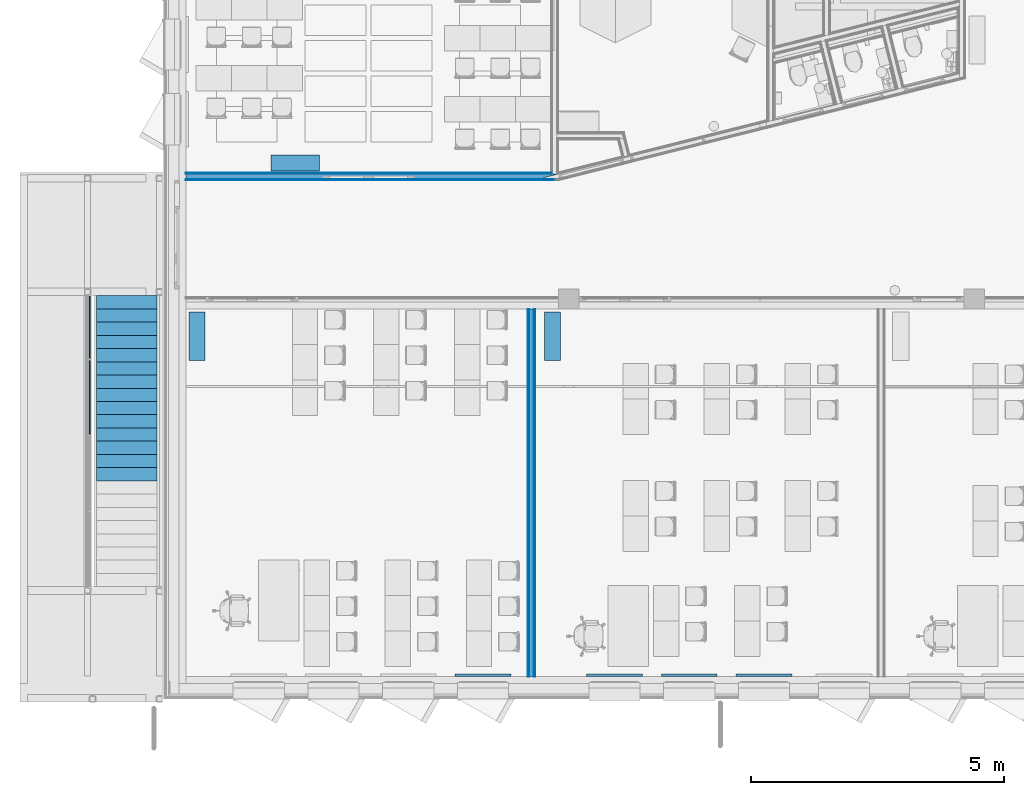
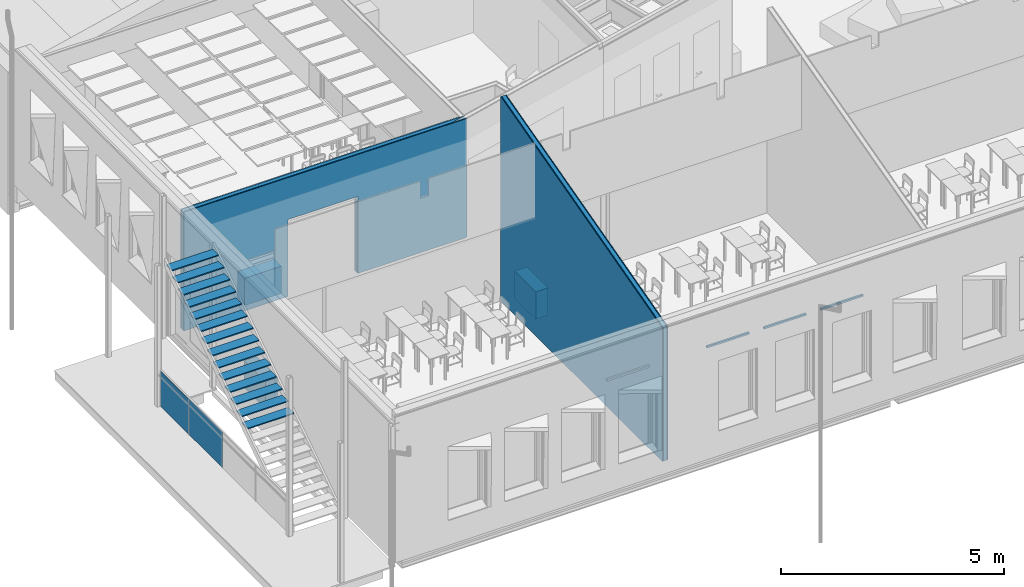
# One storey, part 50 of 153: 25 building element parts, 7 discrete accessories, 1 opening, 4 elements without a shape of their own.
"""IFC2X3 building model written with IfcOpenShell, lengths in millimetres."""

from ifc_helpers import new_model, entity, si_unit, converted_unit, derived_unit, money_unit, direction, frame, origin_with_axes, place, context, subcontext, project, spatial, faceted_brep, material, type_object, element, aggregate, save


model = new_model("IFC2X3")

# Units and contexts
model_context = context("Model", 3, precision=0.01, world=origin_with_axes(), true_north=direction((0.0, 1.0)))
body_context = subcontext(model_context, "Body", "Model", "MODEL_VIEW")
ifc_project = project(units=[si_unit("LENGTHUNIT", "METRE", prefix="MILLI"), si_unit("AREAUNIT", "SQUARE_METRE"), si_unit("VOLUMEUNIT", "CUBIC_METRE"), converted_unit("PLANEANGLEUNIT", "DEGREE", entity("IfcPlaneAngleMeasure", 0.0174532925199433), si_unit("PLANEANGLEUNIT", "RADIAN"), dimensions=[0, 0, 0, 0, 0, 0, 0]), money_unit("EUR"), converted_unit("TIMEUNIT", "Year", entity("IfcTimeMeasure", 31557600.0), si_unit("TIMEUNIT", "SECOND"), dimensions=[0, 0, 1, 0, 0, 0, 0]), si_unit("MASSUNIT", "GRAM", prefix="KILO"), si_unit("THERMODYNAMICTEMPERATUREUNIT", "DEGREE_CELSIUS"), si_unit("LUMINOUSINTENSITYUNIT", "LUMEN"), si_unit("ENERGYUNIT", "JOULE", prefix="MEGA"), derived_unit("THERMALCONDUCTANCEUNIT", [(si_unit("POWERUNIT", "WATT"), 1), (si_unit("LENGTHUNIT", "METRE"), -1), (si_unit("THERMODYNAMICTEMPERATUREUNIT", "KELVIN"), -1)]), derived_unit("SPECIFICHEATCAPACITYUNIT", [(si_unit("ENERGYUNIT", "JOULE"), 1), (si_unit("MASSUNIT", "GRAM", prefix="KILO"), -1), (si_unit("THERMODYNAMICTEMPERATUREUNIT", "KELVIN"), -1)]), derived_unit("MASSDENSITYUNIT", [(si_unit("MASSUNIT", "GRAM", prefix="KILO"), 1), (si_unit("VOLUMEUNIT", "CUBIC_METRE"), -1)])], contexts=[model_context])

# Site, building, storey
site_placement = place(None, frame((0.0, 0.0, 8650.0), z_axis=(0.0, 0.0, 1.0), x_axis=(1.0, 0.0, 0.0)))
site = spatial("IfcSite", under=ifc_project, at=site_placement, Name="43301:001:0844", CompositionType="ELEMENT")
building_placement = place(site_placement, origin_with_axes())
building = spatial("IfcBuilding", under=site, at=building_placement, Name="Kuressaare Ametikooli tuulikute mehaanikute õppekorpus", CompositionType="ELEMENT")
storey_placement = place(building_placement, frame((0.0, 0.0, 4100.0), z_axis=(0.0, 0.0, 1.0), x_axis=(1.0, 0.0, 0.0)))
storey = spatial("IfcBuildingStorey", under=building, at=storey_placement, Name="2.korrus", CompositionType="ELEMENT", Elevation=4100.0)

# Discrete accessories
ifc_material_1 = material(Name="GENEERILINE - KONSTRUKTRIOON")
discrete_accessory_type_1 = type_object("IfcDiscreteAccessoryType", Name="GENEERILINE - KONSTRUKTRIOON 50")
for number, where, z_axis, x_axis, name in (
    (1, (93631.06851173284, 9123.838490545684, 2700.0), (0.0, 0.0, 1.0), (1.0, 0.0, 0.0), "RK"),
    (2, (96223.06858359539, 9123.838490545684, 2700.0), (0.0, 0.0, 1.0), (1.0, 0.0, 0.0), "RK"),
    (3, (97698.06858359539, 9123.838490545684, 2700.0), (0.0, 0.0, 1.0), (1.0, 0.0, 0.0), "RK"),
    (4, (99173.06858359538, 9123.838490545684, 2700.0), (0.0, 0.0, 1.0), (1.0, 0.0, 0.0), "RK"),
):
    element("IfcDiscreteAccessory", number, at=place(storey_placement, frame(where, z_axis=z_axis, x_axis=x_axis)), inside=storey, type_object=discrete_accessory_type_1, material=ifc_material_1, Name=name, context=body_context, shape_type="Brep", body=[
        faceted_brep([(0.0, 0.0, 49.99999999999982), (0.0, 0.0, 0.0), (1099.999999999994, 0.0, 0.0), (1099.999999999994, 0.0, 49.99999999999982), (0.0, 50.00000000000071, 49.99999999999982), (0.0, 50.00000000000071, 0.0), (1099.999999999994, 50.00000000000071, 0.0), (1099.999999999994, 50.00000000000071, 49.99999999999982)], [[[0, 1, 2, 3]], [[4, 5, 1, 0]], [[2, 1, 5, 6]], [[3, 2, 6, 7]], [[4, 0, 3, 7]], [[7, 6, 5, 4]]]),
    ])
discrete_accessory_type_2 = type_object("IfcDiscreteAccessoryType", Name="GENEERILINE - KONSTRUKTRIOON 750")
for number, where, z_axis, x_axis, name in (
    (5, (95707.8482840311, 16314.40807990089, 0.0), (0.0, 0.0, 1.0), (1.0, 0.0, 0.0), "PR2"),
    (6, (88698.22664518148, 16314.40716301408, 0.0), (0.0, 0.0, 1.0), (1.0, 0.0, 0.0), "PR2"),
):
    element("IfcDiscreteAccessory", number, at=place(storey_placement, frame(where, z_axis=z_axis, x_axis=x_axis)), inside=storey, type_object=discrete_accessory_type_2, material=ifc_material_1, Name=name, context=body_context, shape_type="Brep", body=[
        faceted_brep([(0.0, 0.0, 750.0), (0.0, 0.0, 0.0), (-319.9999999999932, 0.0, 0.0), (-319.9999999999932, 0.0, 750.0), (0.0, -949.9999999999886, 750.0), (0.0, -949.9999999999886, 0.0), (-319.9999999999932, -949.9999999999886, 0.0), (-319.9999999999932, -949.9999999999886, 750.0)], [[[0, 1, 2, 3]], [[4, 5, 1, 0]], [[2, 1, 5, 6]], [[3, 2, 6, 7]], [[4, 0, 3, 7]], [[7, 6, 5, 4]]]),
    ])
discrete_accessory_placement = place(storey_placement, frame((89999.22640884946, 19414.52974685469, 0.0), z_axis=(0.0, 0.0, 1.0), x_axis=(1.0, 0.0, 0.0)))
element("IfcDiscreteAccessory", 7, at=discrete_accessory_placement, inside=storey, type_object=discrete_accessory_type_2, material=ifc_material_1, Name="PR2", context=body_context, shape_type="Brep", body=[
    faceted_brep([(0.0, 0.0, 750.0), (0.0, 0.0, 0.0), (0.0, -319.9999999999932, 0.0), (0.0, -319.9999999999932, 750.0), (949.9999999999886, 0.0, 750.0), (949.9999999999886, 0.0, 0.0), (949.9999999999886, -319.9999999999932, 0.0), (949.9999999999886, -319.9999999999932, 750.0)], [[[0, 1, 2, 3]], [[4, 5, 1, 0]], [[2, 1, 5, 6]], [[3, 2, 6, 7]], [[4, 0, 3, 7]], [[7, 6, 5, 4]]]),
])

# Stair, building element parts
stair_placement = place(storey_placement, frame((87831.2266451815, 10898.83806945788, -19.99999999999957), z_axis=(0.0, 0.0, 1.0), x_axis=(1.0, 0.0, 0.0)))
stair = element("IfcStair", 8, at=stair_placement, inside=storey, Name="Trepp1", ShapeType="NOTDEFINED")
ifc_material_2 = material(Name="Steel")
building_element_part_1_placement = place(stair_placement, origin_with_axes())
building_element_part_1 = element("IfcBuildingElementPart", 9, at=building_element_part_1_placement, material=ifc_material_2, Name="Steel", context=body_context, shape_type="Brep", body=[
    faceted_brep([(-80.0000000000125, 2087.199999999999, 1543.043478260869), (-80.0000000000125, 2087.199999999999, 1573.043478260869), (-1280.000000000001, 2087.199999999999, 1573.043478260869), (-1280.000000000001, 2087.199999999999, 1543.043478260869), (-80.0000000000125, 2348.099999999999, 1543.043478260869), (-80.0000000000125, 2348.099999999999, 1573.043478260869), (-1280.000000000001, 2348.099999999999, 1573.043478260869), (-1280.000000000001, 2348.099999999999, 1543.043478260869)], [[[0, 1, 2, 3]], [[4, 5, 1, 0]], [[1, 5, 6, 2]], [[3, 2, 6, 7]], [[0, 3, 7, 4]], [[7, 6, 5, 4]]]),
])
building_element_part_2_placement = place(stair_placement, origin_with_axes())
building_element_part_2 = element("IfcBuildingElementPart", 10, at=building_element_part_2_placement, material=ifc_material_2, Name="Steel", context=body_context, shape_type="Brep", body=[
    faceted_brep([(-80.0000000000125, 2348.099999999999, 1717.826086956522), (-80.0000000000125, 2348.099999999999, 1747.826086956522), (-1280.000000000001, 2348.099999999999, 1747.826086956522), (-1280.000000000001, 2348.099999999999, 1717.826086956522), (-80.0000000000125, 2608.999999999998, 1717.826086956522), (-80.0000000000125, 2608.999999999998, 1747.826086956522), (-1280.000000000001, 2608.999999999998, 1747.826086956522), (-1280.000000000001, 2608.999999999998, 1717.826086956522)], [[[0, 1, 2, 3]], [[4, 5, 1, 0]], [[1, 5, 6, 2]], [[3, 2, 6, 7]], [[0, 3, 7, 4]], [[7, 6, 5, 4]]]),
])
building_element_part_3_placement = place(stair_placement, origin_with_axes())
building_element_part_3 = element("IfcBuildingElementPart", 11, at=building_element_part_3_placement, material=ifc_material_2, Name="Steel", context=body_context, shape_type="Brep", body=[
    faceted_brep([(-80.0000000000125, 2609.0, 1892.608695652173), (-80.0000000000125, 2609.0, 1922.608695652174), (-1280.000000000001, 2609.0, 1922.608695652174), (-1280.000000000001, 2609.0, 1892.608695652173), (-80.0000000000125, 2869.9, 1892.608695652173), (-80.0000000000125, 2869.9, 1922.608695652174), (-1280.000000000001, 2869.9, 1922.608695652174), (-1280.000000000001, 2869.9, 1892.608695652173)], [[[0, 1, 2, 3]], [[4, 5, 1, 0]], [[1, 5, 6, 2]], [[3, 2, 6, 7]], [[0, 3, 7, 4]], [[7, 6, 5, 4]]]),
])
building_element_part_4_placement = place(stair_placement, origin_with_axes())
building_element_part_4 = element("IfcBuildingElementPart", 12, at=building_element_part_4_placement, material=ifc_material_2, Name="Steel", context=body_context, shape_type="Brep", body=[
    faceted_brep([(-80.0000000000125, 2869.9, 2067.391304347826), (-80.0000000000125, 2869.9, 2097.391304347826), (-1280.000000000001, 2869.9, 2097.391304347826), (-1280.000000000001, 2869.9, 2067.391304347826), (-80.0000000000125, 3130.800000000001, 2067.391304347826), (-80.0000000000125, 3130.800000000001, 2097.391304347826), (-1280.000000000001, 3130.800000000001, 2097.391304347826), (-1280.000000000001, 3130.800000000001, 2067.391304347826)], [[[0, 1, 2, 3]], [[4, 5, 1, 0]], [[1, 5, 6, 2]], [[3, 2, 6, 7]], [[0, 3, 7, 4]], [[7, 6, 5, 4]]]),
])
building_element_part_5_placement = place(stair_placement, origin_with_axes())
building_element_part_5 = element("IfcBuildingElementPart", 13, at=building_element_part_5_placement, material=ifc_material_2, Name="Steel", context=body_context, shape_type="Brep", body=[
    faceted_brep([(-80.0000000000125, 3130.800000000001, 2242.173913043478), (-80.0000000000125, 3130.800000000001, 2272.173913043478), (-1280.000000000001, 3130.800000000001, 2272.173913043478), (-1280.000000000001, 3130.800000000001, 2242.173913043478), (-80.0000000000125, 3391.7, 2242.173913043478), (-80.0000000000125, 3391.7, 2272.173913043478), (-1280.000000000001, 3391.7, 2272.173913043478), (-1280.000000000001, 3391.7, 2242.173913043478)], [[[0, 1, 2, 3]], [[4, 5, 1, 0]], [[1, 5, 6, 2]], [[3, 2, 6, 7]], [[0, 3, 7, 4]], [[7, 6, 5, 4]]]),
])
building_element_part_6_placement = place(stair_placement, origin_with_axes())
building_element_part_6 = element("IfcBuildingElementPart", 14, at=building_element_part_6_placement, material=ifc_material_2, Name="Steel", context=body_context, shape_type="Brep", body=[
    faceted_brep([(-80.0000000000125, 3391.7, 2416.95652173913), (-80.0000000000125, 3391.7, 2446.95652173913), (-1280.000000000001, 3391.7, 2446.95652173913), (-1280.000000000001, 3391.7, 2416.95652173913), (-80.0000000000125, 3652.599999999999, 2416.95652173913), (-80.0000000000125, 3652.599999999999, 2446.95652173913), (-1280.000000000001, 3652.599999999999, 2446.95652173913), (-1280.000000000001, 3652.599999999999, 2416.95652173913)], [[[0, 1, 2, 3]], [[4, 5, 1, 0]], [[1, 5, 6, 2]], [[3, 2, 6, 7]], [[0, 3, 7, 4]], [[7, 6, 5, 4]]]),
])
building_element_part_7_placement = place(stair_placement, origin_with_axes())
building_element_part_7 = element("IfcBuildingElementPart", 15, at=building_element_part_7_placement, material=ifc_material_2, Name="Steel", context=body_context, shape_type="Brep", body=[
    faceted_brep([(-80.0000000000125, 3652.599999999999, 2591.739130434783), (-80.0000000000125, 3652.599999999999, 2621.739130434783), (-1280.000000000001, 3652.599999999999, 2621.739130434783), (-1280.000000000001, 3652.599999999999, 2591.739130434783), (-80.0000000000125, 3913.499999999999, 2591.739130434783), (-80.0000000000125, 3913.499999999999, 2621.739130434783), (-1280.000000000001, 3913.499999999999, 2621.739130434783), (-1280.000000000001, 3913.499999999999, 2591.739130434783)], [[[0, 1, 2, 3]], [[4, 5, 1, 0]], [[1, 5, 6, 2]], [[3, 2, 6, 7]], [[0, 3, 7, 4]], [[7, 6, 5, 4]]]),
])
building_element_part_8_placement = place(stair_placement, origin_with_axes())
building_element_part_8 = element("IfcBuildingElementPart", 16, at=building_element_part_8_placement, material=ifc_material_2, Name="Steel", context=body_context, shape_type="Brep", body=[
    faceted_brep([(-80.0000000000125, 3913.499999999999, 2766.521739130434), (-80.0000000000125, 3913.499999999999, 2796.521739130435), (-1280.000000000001, 3913.499999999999, 2796.521739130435), (-1280.000000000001, 3913.499999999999, 2766.521739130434), (-80.0000000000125, 4174.399999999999, 2766.521739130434), (-80.0000000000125, 4174.399999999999, 2796.521739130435), (-1280.000000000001, 4174.399999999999, 2796.521739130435), (-1280.000000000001, 4174.399999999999, 2766.521739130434)], [[[0, 1, 2, 3]], [[4, 5, 1, 0]], [[1, 5, 6, 2]], [[3, 2, 6, 7]], [[0, 3, 7, 4]], [[7, 6, 5, 4]]]),
])
building_element_part_9_placement = place(stair_placement, origin_with_axes())
building_element_part_9 = element("IfcBuildingElementPart", 17, at=building_element_part_9_placement, material=ifc_material_2, Name="Steel", context=body_context, shape_type="Brep", body=[
    faceted_brep([(-80.0000000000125, 4174.399999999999, 2941.304347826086), (-80.0000000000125, 4174.399999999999, 2971.304347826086), (-1280.000000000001, 4174.399999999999, 2971.304347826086), (-1280.000000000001, 4174.399999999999, 2941.304347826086), (-80.0000000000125, 4435.299999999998, 2941.304347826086), (-80.0000000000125, 4435.299999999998, 2971.304347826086), (-1280.000000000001, 4435.299999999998, 2971.304347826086), (-1280.000000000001, 4435.299999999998, 2941.304347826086)], [[[0, 1, 2, 3]], [[4, 5, 1, 0]], [[1, 5, 6, 2]], [[3, 2, 6, 7]], [[0, 3, 7, 4]], [[7, 6, 5, 4]]]),
])
building_element_part_10_placement = place(stair_placement, origin_with_axes())
building_element_part_10 = element("IfcBuildingElementPart", 18, at=building_element_part_10_placement, material=ifc_material_2, Name="Steel", context=body_context, shape_type="Brep", body=[
    faceted_brep([(-80.0000000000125, 4435.3, 3116.086956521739), (-80.0000000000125, 4435.3, 3146.086956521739), (-1280.000000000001, 4435.3, 3146.086956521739), (-1280.000000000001, 4435.3, 3116.086956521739), (-80.0000000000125, 4696.199999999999, 3116.086956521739), (-80.0000000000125, 4696.199999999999, 3146.086956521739), (-1280.000000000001, 4696.199999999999, 3146.086956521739), (-1280.000000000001, 4696.199999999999, 3116.086956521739)], [[[0, 1, 2, 3]], [[4, 5, 1, 0]], [[1, 5, 6, 2]], [[3, 2, 6, 7]], [[0, 3, 7, 4]], [[7, 6, 5, 4]]]),
])
building_element_part_11_placement = place(stair_placement, origin_with_axes())
building_element_part_11 = element("IfcBuildingElementPart", 19, at=building_element_part_11_placement, material=ifc_material_2, Name="Steel", context=body_context, shape_type="Brep", body=[
    faceted_brep([(-80.0000000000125, 4696.199999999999, 3290.869565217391), (-80.0000000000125, 4696.199999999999, 3320.869565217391), (-1280.000000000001, 4696.199999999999, 3320.869565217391), (-1280.000000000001, 4696.199999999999, 3290.869565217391), (-80.0000000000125, 4957.1, 3290.869565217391), (-80.0000000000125, 4957.1, 3320.869565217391), (-1280.000000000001, 4957.1, 3320.869565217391), (-1280.000000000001, 4957.1, 3290.869565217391)], [[[0, 1, 2, 3]], [[4, 5, 1, 0]], [[1, 5, 6, 2]], [[3, 2, 6, 7]], [[0, 3, 7, 4]], [[7, 6, 5, 4]]]),
])
building_element_part_12_placement = place(stair_placement, origin_with_axes())
building_element_part_12 = element("IfcBuildingElementPart", 20, at=building_element_part_12_placement, material=ifc_material_2, Name="Steel", context=body_context, shape_type="Brep", body=[
    faceted_brep([(-80.0000000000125, 4957.1, 3465.652173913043), (-80.0000000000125, 4957.1, 3495.652173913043), (-1280.000000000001, 4957.1, 3495.652173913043), (-1280.000000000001, 4957.1, 3465.652173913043), (-80.0000000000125, 5218.0, 3465.652173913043), (-80.0000000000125, 5218.0, 3495.652173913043), (-1280.000000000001, 5218.0, 3495.652173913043), (-1280.000000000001, 5218.0, 3465.652173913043)], [[[0, 1, 2, 3]], [[4, 5, 1, 0]], [[1, 5, 6, 2]], [[3, 2, 6, 7]], [[0, 3, 7, 4]], [[7, 6, 5, 4]]]),
])
building_element_part_13_placement = place(stair_placement, origin_with_axes())
building_element_part_13 = element("IfcBuildingElementPart", 21, at=building_element_part_13_placement, material=ifc_material_2, Name="Steel", context=body_context, shape_type="Brep", body=[
    faceted_brep([(-80.0000000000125, 5218.0, 3640.434782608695), (-80.0000000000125, 5218.0, 3670.434782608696), (-1280.000000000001, 5218.0, 3670.434782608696), (-1280.000000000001, 5218.0, 3640.434782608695), (-80.0000000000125, 5478.9, 3640.434782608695), (-80.0000000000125, 5478.9, 3670.434782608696), (-1280.000000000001, 5478.9, 3670.434782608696), (-1280.000000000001, 5478.9, 3640.434782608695)], [[[0, 1, 2, 3]], [[4, 5, 1, 0]], [[1, 5, 6, 2]], [[3, 2, 6, 7]], [[0, 3, 7, 4]], [[7, 6, 5, 4]]]),
])
building_element_part_14_placement = place(stair_placement, origin_with_axes())
building_element_part_14 = element("IfcBuildingElementPart", 22, at=building_element_part_14_placement, material=ifc_material_2, Name="Steel", context=body_context, shape_type="Brep", body=[
    faceted_brep([(-80.0000000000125, 5478.9, 3815.217391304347), (-80.0000000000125, 5478.9, 3845.217391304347), (-1280.000000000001, 5478.9, 3845.217391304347), (-1280.000000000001, 5478.9, 3815.217391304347), (-80.0000000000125, 5739.799999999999, 3815.217391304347), (-80.0000000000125, 5739.799999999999, 3845.217391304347), (-1280.000000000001, 5739.799999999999, 3845.217391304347), (-1280.000000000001, 5739.799999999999, 3815.217391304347)], [[[0, 1, 2, 3]], [[4, 5, 1, 0]], [[1, 5, 6, 2]], [[3, 2, 6, 7]], [[0, 3, 7, 4]], [[7, 6, 5, 4]]]),
])
aggregate(stair, [building_element_part_1, building_element_part_2, building_element_part_3, building_element_part_4, building_element_part_5, building_element_part_6, building_element_part_7, building_element_part_8, building_element_part_9, building_element_part_10, building_element_part_11, building_element_part_12, building_element_part_13, building_element_part_14])

# Wall, opening, building element parts
wall_type = type_object("IfcWallType", Name="SS-2.2 147", PredefinedType="NOTDEFINED")
wall_1_placement = place(storey_placement, frame((95668.0612605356, 18913.83737729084, 0.0), z_axis=(0.0, 0.0, 1.0), x_axis=(-1.0, 0.0, 0.0)))
wall_1 = element("IfcWall", 23, at=wall_1_placement, inside=storey, type_object=wall_type, Name="Sisesein")
opening_placement = place(wall_1_placement, frame((3748.41375937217, 0.0, 0.0), z_axis=(0.0, 0.0, 1.0), x_axis=(1.0, 0.0, 0.0)))
element("IfcOpeningElement", 24, at=opening_placement, cuts=wall_1, Name="PKU9+9,dB", context=body_context, shape_type="Brep", body=[
    faceted_brep([(-905.0000000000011, -147.9999999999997, 2110.0), (-905.0000000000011, -147.9999999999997, 0.0), (905.0000000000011, -147.9999999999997, 0.0), (905.0000000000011, -147.9999999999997, 2110.0), (-905.0000000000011, 1.000000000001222, 2110.0), (-905.0000000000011, 1.000000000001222, 0.0), (905.0000000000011, 1.000000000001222, 0.0), (905.0000000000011, 1.000000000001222, 2110.0)], [[[0, 1, 2, 3]], [[4, 5, 1, 0]], [[5, 6, 2, 1]], [[6, 7, 3, 2]], [[7, 4, 0, 3]], [[6, 5, 4, 7]]]),
])
ifc_material_3 = material(Name="Kipsplaat")
building_element_part_15_placement = place(wall_1_placement, origin_with_axes())
building_element_part_15 = element("IfcBuildingElementPart", 25, at=building_element_part_15_placement, material=ifc_material_3, Name="Kipsplaat", context=body_context, shape_type="Brep", body=[
    faceted_brep([(2843.413759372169, -13.00000000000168, 2110.0), (4653.413759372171, -13.00000000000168, 2110.0), (4653.413759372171, -13.00000000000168, 0.0), (7349.834615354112, -13.00000000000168, 0.0), (7349.834615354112, -13.00000000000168, 3259.999999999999), (1.604370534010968, -12.99999999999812, 3259.999999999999), (1.604370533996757, -13.00000000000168, 0.0), (2843.413759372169, -13.00000000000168, 0.0), (4653.413759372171, 0.0, 2110.0), (2843.413759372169, 0.0, 2110.0), (4653.413759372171, 0.0, 0.0), (7349.834615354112, 0.0, 0.0), (7349.834615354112, 0.0, 3259.999999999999), (53.47081648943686, 0.0, 3259.999999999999), (53.47081648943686, 0.0, 0.0), (2843.413759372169, 0.0, 0.0)], [[[0, 1, 2, 3, 4, 5, 6, 7]], [[8, 1, 0, 9]], [[10, 2, 1, 8]], [[3, 2, 10, 11]], [[3, 11, 12, 4]], [[4, 12, 13, 5]], [[13, 14, 6, 5]], [[14, 15, 7, 6]], [[9, 0, 7, 15]], [[8, 9, 15, 14, 13, 12, 11, 10]]]),
])
building_element_part_16_placement = place(wall_1_placement, origin_with_axes())
building_element_part_16 = element("IfcBuildingElementPart", 26, at=building_element_part_16_placement, material=ifc_material_3, Name="Kipsplaat", context=body_context, shape_type="Brep", body=[
    faceted_brep([(2843.413759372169, -25.9999999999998, 2110.0), (4653.413759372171, -25.9999999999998, 2110.0), (4653.413759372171, -25.9999999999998, 0.0), (7349.834615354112, -25.9999999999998, 0.0), (7349.834615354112, -25.9999999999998, 3259.999999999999), (3.208741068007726, -25.9999999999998, 3259.999999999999), (3.208741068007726, -25.9999999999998, 0.0), (2843.413759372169, -25.9999999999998, 0.0), (4653.413759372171, -13.00000000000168, 2110.0), (2843.413759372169, -13.00000000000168, 2110.0), (4653.413759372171, -13.00000000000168, 0.0), (7349.834615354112, -13.00000000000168, 0.0), (7349.834615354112, -13.00000000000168, 3259.999999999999), (55.07518702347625, -12.99999999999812, 3259.999999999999), (55.07518702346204, -13.00000000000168, 0.0), (2843.413759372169, -13.00000000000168, 0.0)], [[[0, 1, 2, 3, 4, 5, 6, 7]], [[8, 1, 0, 9]], [[10, 2, 1, 8]], [[3, 2, 10, 11]], [[3, 11, 12, 4]], [[4, 12, 13, 5]], [[13, 14, 6, 5]], [[14, 15, 7, 6]], [[9, 0, 7, 15]], [[8, 9, 15, 14, 13, 12, 11, 10]]]),
])
building_element_part_17_placement = place(wall_1_placement, origin_with_axes())
building_element_part_17 = element("IfcBuildingElementPart", 27, at=building_element_part_17_placement, material=ifc_material_3, Name="Kipsplaat", context=body_context, shape_type="Brep", body=[
    faceted_brep([(4653.413759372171, -147.000000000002, 2110.0), (4653.413759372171, -147.000000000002, 0.0), (7349.834615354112, -147.000000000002, 0.0), (7349.834615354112, -147.000000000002, 3259.999999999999), (133.9929033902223, -146.9999999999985, 3259.999999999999), (133.9929033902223, -146.9999999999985, 0.0), (2843.413759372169, -146.9999999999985, 0.0), (2843.413759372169, -147.000000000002, 2110.0), (4653.413759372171, -134.0000000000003, 2110.0), (4653.413759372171, -134.0000000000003, 0.0), (7349.834615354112, -134.0000000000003, 0.0), (7349.834615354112, -134.0000000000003, 3259.999999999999), (133.9929033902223, -134.0000000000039, 3259.999999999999), (133.9929033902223, -134.0000000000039, 0.0), (2843.413759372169, -134.0000000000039, 0.0), (2843.413759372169, -134.0000000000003, 2110.0)], [[[0, 1, 2, 3, 4, 5, 6, 7]], [[1, 0, 8, 9]], [[1, 9, 10, 2]], [[2, 10, 11, 3]], [[12, 4, 3, 11]], [[5, 4, 12, 13]], [[14, 6, 5, 13]], [[7, 6, 14, 15]], [[0, 7, 15, 8]], [[15, 14, 13, 12, 11, 10, 9, 8]]]),
])
ifc_material_4 = material(Name="Soojustus - Mineraalvill pehme")
building_element_part_18_placement = place(wall_1_placement, origin_with_axes())
building_element_part_18 = element("IfcBuildingElementPart", 28, at=building_element_part_18_placement, material=ifc_material_4, Name="Soojustus - Mineraalvill pehme", context=body_context, shape_type="Brep", body=[
    faceted_brep([(4653.413759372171, -120.9999999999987, 2110.0), (4653.413759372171, -121.0000000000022, 0.0), (7349.834615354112, -121.0000000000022, 0.0), (7349.834615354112, -120.9999999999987, 3259.999999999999), (14.93298727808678, -120.9999999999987, 3259.999999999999), (14.93298727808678, -120.9999999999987, 0.0), (2843.413759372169, -120.9999999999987, 0.0), (2843.413759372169, -120.9999999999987, 2110.0), (4653.413759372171, -25.9999999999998, 2110.0), (4653.413759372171, -25.9999999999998, 0.0), (7349.834615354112, -25.9999999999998, 0.0), (7349.834615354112, -25.9999999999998, 3259.999999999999), (393.9570154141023, -25.9999999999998, 3259.999999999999), (393.9570154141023, -25.9999999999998, 0.0), (2843.413759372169, -25.9999999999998, 0.0), (2843.413759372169, -25.9999999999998, 2110.0)], [[[0, 1, 2, 3, 4, 5, 6, 7]], [[1, 0, 8, 9]], [[1, 9, 10, 2]], [[2, 10, 11, 3]], [[3, 11, 12, 4]], [[12, 13, 5, 4]], [[14, 6, 5, 13]], [[7, 6, 14, 15]], [[0, 7, 15, 8]], [[15, 14, 13, 12, 11, 10, 9, 8]]]),
])
aggregate(wall_1, [building_element_part_15, building_element_part_16, building_element_part_17, building_element_part_18])

# Wall, building element parts
wall_2_placement = place(storey_placement, frame((95208.0683571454, 9123.838490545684, 0.0), z_axis=(0.0, 0.0, 1.0), x_axis=(-1.330780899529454e-07, 0.9999999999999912, 0.0)))
wall_2 = element("IfcWall", 29, at=wall_2_placement, inside=storey, type_object=wall_type, Name="Sisesein")
building_element_part_19_placement = place(wall_2_placement, origin_with_axes())
building_element_part_19 = element("IfcBuildingElementPart", 30, at=building_element_part_19_placement, material=ifc_material_3, Name="Kipsplaat", context=body_context, shape_type="Brep", body=[
    faceted_brep([(7250.208610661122, 146.9999994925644, 5607.486766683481), (7250.208603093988, 134.0000000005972, 5607.486764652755), (7250.209559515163, 133.9999999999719, 3589.999999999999), (7250.209561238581, 146.9999999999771, 3589.999999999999), (0.0006571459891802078, 134.0000000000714, 3664.799400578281), (0.000658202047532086, 146.9999906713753, 3664.799400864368), (1.783246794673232e-05, 134.0000000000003, 0.0), (7250.209301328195, 134.0000000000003, 0.0), (7250.209301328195, 134.0000000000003, 3259.999999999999), (7250.209301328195, 147.0000000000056, 3259.999999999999), (7250.209301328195, 146.9999999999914, 0.0), (1.95624831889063e-05, 147.0000000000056, 0.0)], [[[0, 1, 2, 3]], [[4, 1, 0, 5]], [[1, 4, 6, 7, 8, 2]], [[8, 9, 3, 2]], [[5, 0, 3, 9, 10, 11]], [[4, 5, 11, 6]], [[6, 11, 10, 7]], [[7, 10, 9, 8]]]),
])
building_element_part_20_placement = place(wall_2_placement, origin_with_axes())
building_element_part_20 = element("IfcBuildingElementPart", 31, at=building_element_part_20_placement, material=ifc_material_4, Name="Soojustus - Mineraalvill pehme", context=body_context, shape_type="Brep", body=[
    faceted_brep([(7250.208595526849, 121.0000000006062, 5607.486762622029), (7250.208540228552, 26.0000000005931, 5607.486747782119), (7250.209545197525, 25.99999999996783, 3589.999999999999), (7250.209557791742, 120.9999999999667, 3589.999999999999), (0.000648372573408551, 26.0000000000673, 3664.799398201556), (0.0006560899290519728, 121.000000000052, 3664.799400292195), (3.460034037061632e-06, 25.99999999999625, 0.0), (7250.209301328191, 25.99999999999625, 0.0), (7250.209301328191, 25.99999999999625, 3259.999999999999), (7250.209301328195, 120.9999999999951, 3259.999999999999), (7250.209301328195, 120.9999999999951, 0.0), (1.610245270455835e-05, 120.9999999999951, 0.0)], [[[0, 1, 2, 3]], [[4, 1, 0, 5]], [[1, 4, 6, 7, 8, 2]], [[8, 9, 3, 2]], [[5, 0, 3, 9, 10, 11]], [[4, 5, 11, 6]], [[6, 11, 10, 7]], [[7, 10, 9, 8]]]),
])
building_element_part_21_placement = place(wall_2_placement, origin_with_axes())
building_element_part_21 = element("IfcBuildingElementPart", 32, at=building_element_part_21_placement, material=ifc_material_3, Name="Kipsplaat", context=body_context, shape_type="Brep", body=[
    faceted_brep([(7250.208603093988, 134.0000000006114, 5607.486764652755), (7250.208595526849, 121.0000000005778, 5607.486762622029), (7250.209557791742, 120.9999999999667, 3589.999999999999), (7250.209559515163, 133.9999999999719, 3589.999999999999), (0.0006560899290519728, 121.000000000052, 3664.799400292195), (0.0006571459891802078, 134.0000000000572, 3664.799400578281), (1.610245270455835e-05, 120.9999999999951, 0.0), (7250.209301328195, 120.9999999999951, 0.0), (7250.209301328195, 120.9999999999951, 3259.999999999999), (7250.209301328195, 134.0000000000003, 3259.999999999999), (7250.209301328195, 134.0000000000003, 0.0), (1.783246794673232e-05, 134.0000000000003, 0.0)], [[[0, 1, 2, 3]], [[4, 1, 0, 5]], [[1, 4, 6, 7, 8, 2]], [[8, 9, 3, 2]], [[5, 0, 3, 9, 10, 11]], [[4, 5, 11, 6]], [[6, 11, 10, 7]], [[7, 10, 9, 8]]]),
])
building_element_part_22_placement = place(wall_2_placement, origin_with_axes())
building_element_part_22 = element("IfcBuildingElementPart", 33, at=building_element_part_22_placement, material=ifc_material_3, Name="Kipsplaat", context=body_context, shape_type="Brep", body=[
    faceted_brep([(7250.208540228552, 26.00000000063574, 5607.486747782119), (7250.208532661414, 13.00000000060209, 5607.486745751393), (7250.209543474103, 12.9999999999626, 3589.999999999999), (7250.209545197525, 25.99999999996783, 3589.999999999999), (0.000647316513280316, 13.00000000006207, 3664.799397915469), (0.000648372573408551, 26.00000000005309, 3664.799398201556), (1.730018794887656e-06, 13.00000000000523, 0.0), (7250.209301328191, 12.99999999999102, 0.0), (7250.209301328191, 12.99999999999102, 3259.999999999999), (7250.209301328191, 25.99999999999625, 3259.999999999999), (7250.209301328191, 25.99999999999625, 0.0), (3.460034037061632e-06, 25.99999999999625, 0.0)], [[[0, 1, 2, 3]], [[4, 1, 0, 5]], [[1, 4, 6, 7, 8, 2]], [[8, 9, 3, 2]], [[5, 0, 3, 9, 10, 11]], [[4, 5, 11, 6]], [[6, 11, 10, 7]], [[7, 10, 9, 8]]]),
])
building_element_part_23_placement = place(wall_2_placement, origin_with_axes())
building_element_part_23 = element("IfcBuildingElementPart", 34, at=building_element_part_23_placement, material=ifc_material_3, Name="Kipsplaat", context=body_context, shape_type="Brep", body=[
    faceted_brep([(7250.208532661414, 13.00000000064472, 5607.486745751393), (7250.20852509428, 5.826450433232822e-10, 5607.486743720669), (7250.209541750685, 0.0, 3589.999999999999), (7250.209543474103, 12.99999999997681, 3589.999999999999), (0.000646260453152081, 0.0, 3664.799397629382), (0.000647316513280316, 13.00000000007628, 3664.799397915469), (0.0, 0.0, 0.0), (7250.209301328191, 0.0, 0.0), (7250.209301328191, 0.0, 3259.999999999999), (7250.209301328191, 13.00000000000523, 3259.999999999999), (7250.209301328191, 12.99999999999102, 0.0), (1.730018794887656e-06, 13.00000000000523, 0.0)], [[[0, 1, 2, 3]], [[4, 1, 0, 5]], [[1, 4, 6, 7, 8, 2]], [[8, 9, 3, 2]], [[5, 0, 3, 9, 10, 11]], [[4, 5, 11, 6]], [[6, 11, 10, 7]], [[7, 10, 9, 8]]]),
])
aggregate(wall_2, [building_element_part_19, building_element_part_20, building_element_part_21, building_element_part_22, building_element_part_23])

# Railing, building element parts
railing_type = type_object("IfcRailingType", Name="Railing Type", PredefinedType="NOTDEFINED")
railing_placement = place(storey_placement, frame((86439.22664518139, 10898.83806945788, -19.99999999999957), z_axis=(0.0, 0.0, 1.0), x_axis=(-1.0, 0.0, 0.0)))
railing = element("IfcRailing", 35, at=railing_placement, inside=storey, type_object=railing_type, Name="Piire", PredefinedType="NOTDEFINED")
ifc_material_5 = material(Name="Klaas")
building_element_part_24_placement = place(railing_placement, origin_with_axes())
building_element_part_24 = element("IfcBuildingElementPart", 36, at=building_element_part_24_placement, material=ifc_material_5, Name="Klaas", context=body_context, shape_type="Brep", body=[
    faceted_brep([(9.999999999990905, -4484.999656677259, 0.0), (9.999999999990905, -4484.999656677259, 960.0), (9.999999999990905, -2984.999656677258, 960.0), (9.999999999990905, -2984.999656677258, 0.0), (30.00000000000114, -4484.999656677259, 0.0), (30.00000000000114, -4484.999656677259, 960.0), (30.00000000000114, -2984.999656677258, 960.0), (30.00000000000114, -2984.999656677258, 0.0)], [[[0, 1, 2, 3]], [[0, 4, 5, 1]], [[1, 5, 6, 2]], [[6, 7, 3, 2]], [[7, 4, 0, 3]], [[6, 5, 4, 7]]]),
])
building_element_part_25_placement = place(railing_placement, origin_with_axes())
building_element_part_25 = element("IfcBuildingElementPart", 37, at=building_element_part_25_placement, material=ifc_material_5, Name="Klaas", context=body_context, shape_type="Brep", body=[
    faceted_brep([(9.999999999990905, -5754.999999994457, 0.0), (9.999999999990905, -5754.999999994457, 960.0), (9.999999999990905, -4484.999656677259, 960.0), (9.999999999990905, -4484.999656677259, 0.0), (30.00000000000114, -5754.999999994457, 0.0), (30.00000000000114, -5754.999999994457, 960.0), (30.00000000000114, -4484.999656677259, 960.0), (30.00000000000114, -4484.999656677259, 0.0)], [[[0, 1, 2, 3]], [[0, 4, 5, 1]], [[1, 5, 6, 2]], [[6, 7, 3, 2]], [[7, 4, 0, 3]], [[6, 5, 4, 7]]]),
])
aggregate(railing, [building_element_part_24, building_element_part_25])

save(model, "model.ifc")
